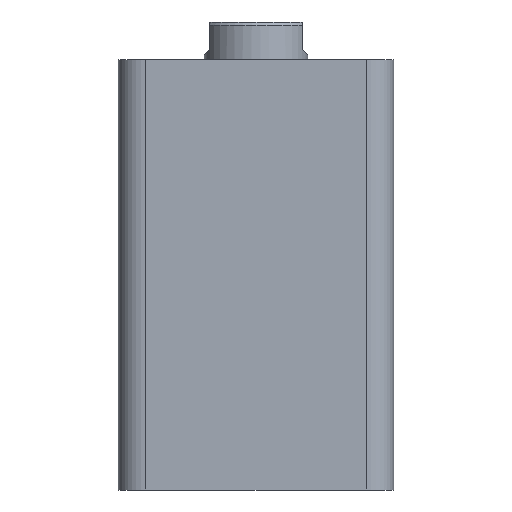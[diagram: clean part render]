
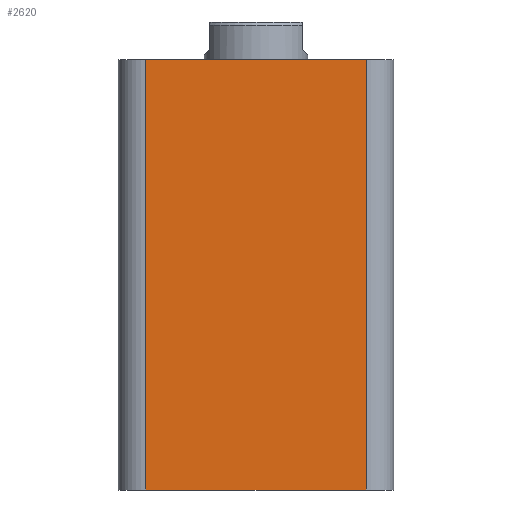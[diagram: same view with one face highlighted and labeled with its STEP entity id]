
A CAD part, front view. The second image highlights one B-rep face of the part: STEP entity #2620.
In plain terms, the highlighted planar face has unit normal (0, -1, 0).
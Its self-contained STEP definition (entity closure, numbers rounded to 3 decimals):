
#389 = EDGE_LOOP ( 'NONE', ( #507, #607, #519, #531 ) ) ;
#416 = VERTEX_POINT ( 'NONE', #2166 ) ;
#477 = VERTEX_POINT ( 'NONE', #2142 ) ;
#507 = ORIENTED_EDGE ( 'NONE', *, *, #1065, .F. ) ;
#508 = VERTEX_POINT ( 'NONE', #2132 ) ;
#519 = ORIENTED_EDGE ( 'NONE', *, *, #1063, .T. ) ;
#531 = ORIENTED_EDGE ( 'NONE', *, *, #1062, .T. ) ;
#607 = ORIENTED_EDGE ( 'NONE', *, *, #1064, .T. ) ;
#667 = VERTEX_POINT ( 'NONE', #2083 ) ;
#731 = DIRECTION ( 'NONE',  ( 0., 0., 1. ) ) ;
#737 = CARTESIAN_POINT ( 'NONE',  ( -40., -40., 0. ) ) ;
#745 = DIRECTION ( 'NONE',  ( 1., 0., 0. ) ) ;
#750 = CARTESIAN_POINT ( 'NONE',  ( -32., -40., 125. ) ) ;
#752 = DIRECTION ( 'NONE',  ( 0., 0., -1. ) ) ;
#754 = CARTESIAN_POINT ( 'NONE',  ( -40., -40., 125. ) ) ;
#755 = DIRECTION ( 'NONE',  ( 1., 0., 0. ) ) ;
#979 = CARTESIAN_POINT ( 'NONE',  ( 32., -40., 125. ) ) ;
#1062 = EDGE_CURVE ( 'NONE', #477, #667, #1510, .T. ) ;
#1063 = EDGE_CURVE ( 'NONE', #416, #477, #1511, .T. ) ;
#1064 = EDGE_CURVE ( 'NONE', #508, #416, #1507, .T. ) ;
#1065 = EDGE_CURVE ( 'NONE', #508, #667, #1505, .T. ) ;
#1307 = FACE_OUTER_BOUND ( 'NONE', #389, .T. ) ;
#1502 = VECTOR ( 'NONE', #755, 1000. ) ;
#1504 = VECTOR ( 'NONE', #752, 1000. ) ;
#1505 = LINE ( 'NONE', #754, #1502 ) ;
#1506 = VECTOR ( 'NONE', #745, 1000. ) ;
#1507 = LINE ( 'NONE', #750, #1504 ) ;
#1508 = VECTOR ( 'NONE', #731, 1000. ) ;
#1510 = LINE ( 'NONE', #979, #1508 ) ;
#1511 = LINE ( 'NONE', #737, #1506 ) ;
#1755 = DIRECTION ( 'NONE',  ( 0., 0., 1. ) ) ;
#1756 = DIRECTION ( 'NONE',  ( 0., 1., 0. ) ) ;
#1759 = PLANE ( 'NONE',  #2465 ) ;
#1761 = CARTESIAN_POINT ( 'NONE',  ( -40., -40., 125. ) ) ;
#2083 = CARTESIAN_POINT ( 'NONE',  ( 32., -40., 125. ) ) ;
#2132 = CARTESIAN_POINT ( 'NONE',  ( -32., -40., 125. ) ) ;
#2142 = CARTESIAN_POINT ( 'NONE',  ( 32., -40., 0. ) ) ;
#2166 = CARTESIAN_POINT ( 'NONE',  ( -32., -40., 0. ) ) ;
#2465 = AXIS2_PLACEMENT_3D ( 'NONE', #1761, #1756, #1755 ) ;
#2620 = ADVANCED_FACE ( 'NONE', ( #1307 ), #1759, .F. ) ;
